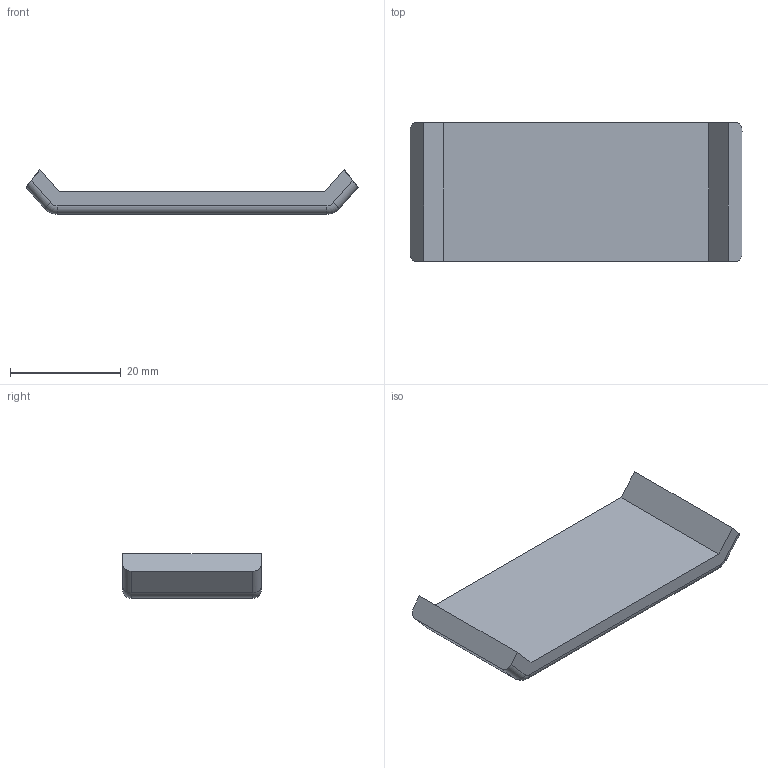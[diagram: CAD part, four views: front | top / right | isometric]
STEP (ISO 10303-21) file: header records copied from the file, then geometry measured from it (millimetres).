
FILE_DESCRIPTION (( 'STEP AP214' ), '1' );
FILE_NAME ('1.1034 Päätysuoja kulmalle 25.STEP', '2025-09-03T09:05:11', ( '' ), ( '' ), 'SwSTEP 2.0', 'SolidWorks 2025', '' );
FILE_SCHEMA (( 'AUTOMOTIVE_DESIGN' ));
Length unit declared in the file: millimetre
Products named in the file (1): 1.1034 Päätysuoja kulmalle 25
Bounding box: 60 x 25 x 8 mm (x, y, z)
Volume: 6049.7 mm3; surface area: 3726.7 mm2
Topology: 1 solids, 1 shells, 244 faces, 682 edges, 452 vertices
Faces by surface type: plane 147, bspline 85, cylinder 8, torus 4
Entity records: 10431 total; most frequent: CARTESIAN_POINT 4728, ORIENTED_EDGE 1364, DIRECTION 836, EDGE_CURVE 682, VECTOR 492, LINE 492, VERTEX_POINT 452, EDGE_LOOP 256
